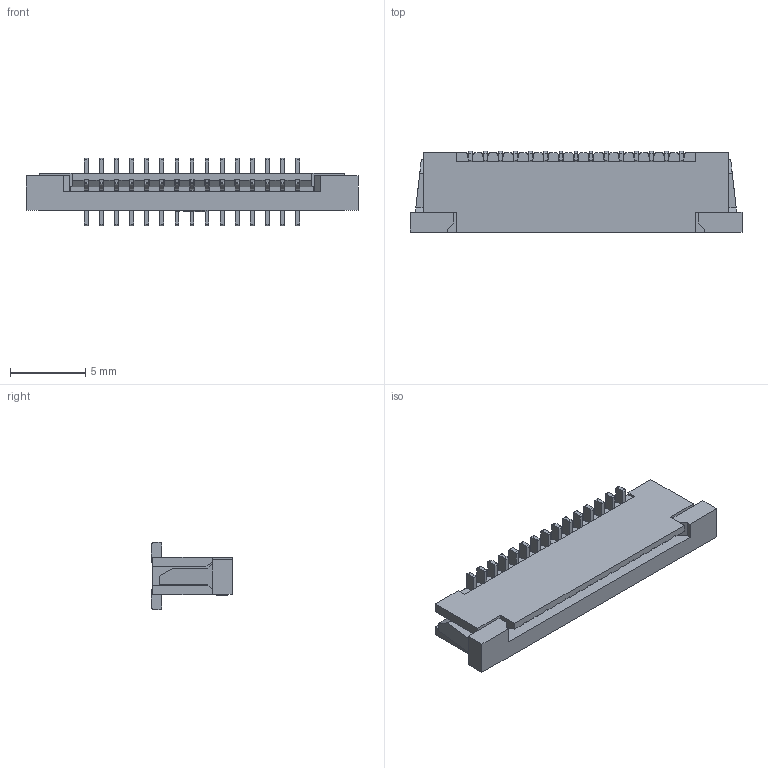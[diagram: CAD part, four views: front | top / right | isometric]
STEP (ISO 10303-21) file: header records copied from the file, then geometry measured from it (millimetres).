
FILE_DESCRIPTION (( 'STEP AP203' ), '1' );
FILE_NAME ('GT-F1003SV54-15SBT02.STEP', '2025-05-21T10:38:08', ( '' ), ( '' ), 'SwSTEP 2.0', 'SolidWorks 2020', '' );
FILE_SCHEMA (( 'CONFIG_CONTROL_DESIGN' ));
Products named in the file (1): GT-F1003SV54-15SBT02
Bounding box: 22 x 5.37 x 4.45 mm (x, y, z)
Volume: 230.8 mm3; surface area: 1037.1 mm2
Topology: 17 solids, 17 shells, 1677 faces, 4869 edges, 3225 vertices
Faces by surface type: plane 1104, cylinder 496, bspline 77
Entity records: 58958 total; most frequent: CARTESIAN_POINT 14169, ORIENTED_EDGE 9738, DIRECTION 8871, EDGE_CURVE 4869, VECTOR 3689, LINE 3689, VERTEX_POINT 3225, AXIS2_PLACEMENT_3D 2591
